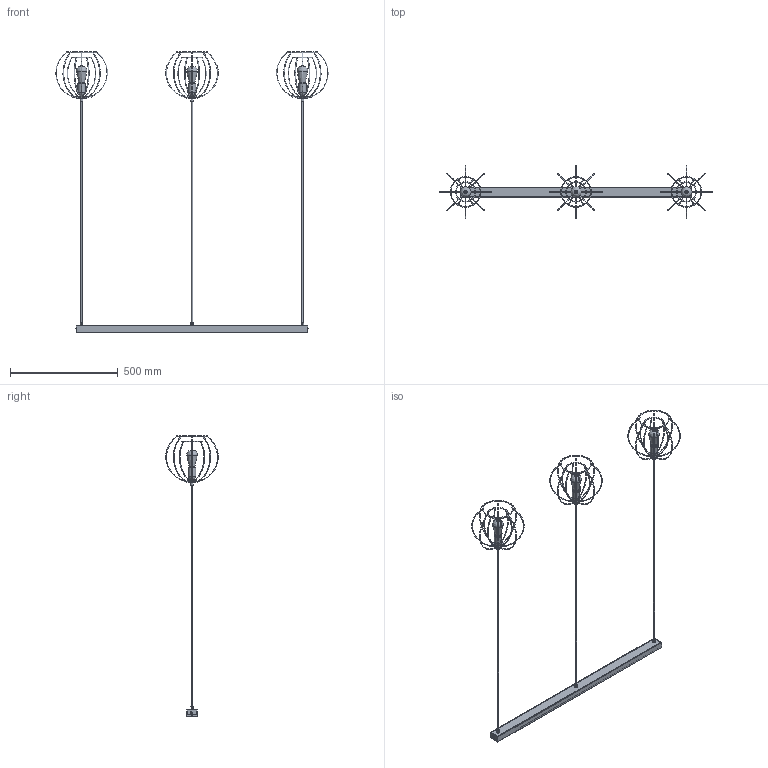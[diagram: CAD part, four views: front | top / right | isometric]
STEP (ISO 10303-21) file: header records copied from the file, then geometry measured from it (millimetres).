
FILE_DESCRIPTION(/* description */ (''),/* implementation_level */ '2;1');
FILE_NAME(/* name */ 'C:/Users/Jakub Wieczorkowski/Desktop/STEP/JAULA_6253 v2 v2 v1.step',/* time_stamp */ '2022-02-22T09:07:30+01:00',/* author */ (''),/* organization */ (''),/* preprocessor_version */ 'ST-DEVELOPER v18.1',/* originating_system */ 'Autodesk Translation Framework v10.13.0.1454',/* authorisation */ '');
FILE_SCHEMA (('AUTOMOTIVE_DESIGN { 1 0 10303 214 3 1 1 }'));
Length unit declared in the file: millimetre
Products named in the file (8): JAULA_6253 v2 v2; JAULA_OPRAWA v5; Cięgno v1; Belka górna JAULA v5; ŚRUBA_ROLLO v1 (1); ŚRUBA_ROLLO v1(Mirror) (1); JAULA_OPRAWA v5 (1); JAULA_OPRAWA v5 (2)
Assembly tree (9 placements, depth 3):
  JAULA_6253 v2 v2
    Cięgno v1  x3
    JAULA_OPRAWA v5
    Belka górna JAULA v5
      ŚRUBA_ROLLO v1 (1)
      ŚRUBA_ROLLO v1(Mirror) (1)
    JAULA_OPRAWA v5 (1)
    JAULA_OPRAWA v5 (2)
Bounding box: 1268 x 243 x 1299.99 mm (x, y, z)
Volume: 1537799.3 mm3; surface area: 700244.6 mm2
Topology: 105 solids, 105 shells, 580 faces, 1042 edges, 678 vertices
Faces by surface type: plane 269, cylinder 108, torus 105, cone 54, bspline 32, sphere 12
Full cylindrical faces by diameter (mm): 1.217 x12, 3.432 x42, 5 x3, 5.6 x3, 6 x6, 6.084 x3, 8 x2, 10 x3, 12 x3, 27.229 x3, 28.142 x3, 33.93 x3, 35.1 x3
Entity records: 15169 total; most frequent: CARTESIAN_POINT 3841, DIRECTION 2570, ORIENTED_EDGE 1956, AXIS2_PLACEMENT_3D 1122, EDGE_CURVE 978, VERTEX_POINT 638, CIRCLE 581, EDGE_LOOP 568
